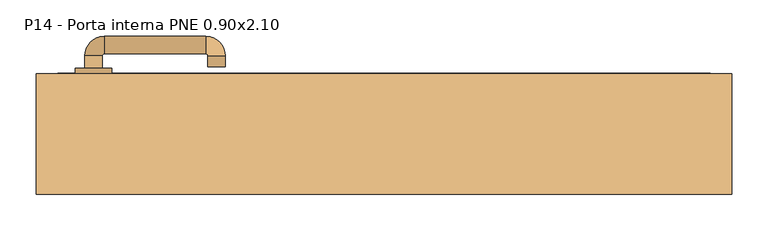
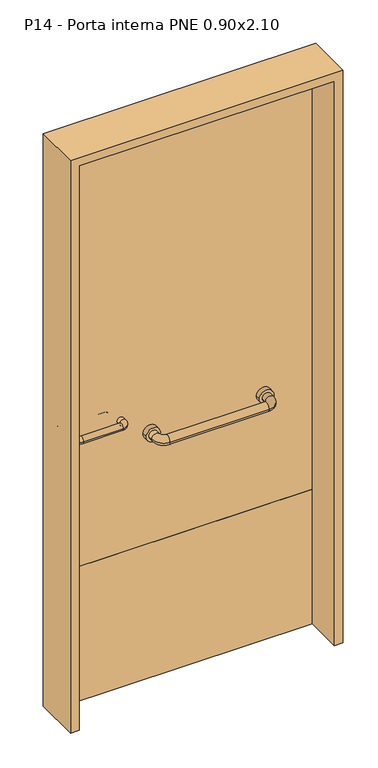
"""IFC4 building model written with IfcOpenShell, lengths in millimetres: door geometry, porta pne medida interna : P14 - Porta interna PNE 0.90x2.10."""

import ifcopenshell
import ifcopenshell.guid

model = None  # the IFC model being written
_history = None  # IfcOwnerHistory: only IFC2X3 demands one
_inside = {}  # id of a spatial element -> (the spatial element, [elements in it])
_under = {}  # id of a project, library or spatial element -> (it, [spatial elements below it])
_declared = {}  # id of a project -> (the project, [libraries it declares])
_typed = {}  # id of a type object -> (the type object, [elements of that type])
_made_of = {}  # id of a material, layer set ... -> (it, [elements and type objects made of it])


def new_model(schema):
    """Start an empty IFC model of exactly this schema.

    Asked for "IFC4X3", IfcOpenShell would pick the latest addendum, in which some entities
    have other attributes; the version numbers below select the first issue.
    IFC2X3 requires an IfcOwnerHistory on every rooted entity: one is made here for all.
    """
    global model, _history
    if schema == "IFC4X3":
        model = ifcopenshell.file(schema_version=(4, 3, 0, 0))
    else:
        model = ifcopenshell.file(schema=schema)
    _inside.clear()
    _under.clear()
    _declared.clear()
    _typed.clear()
    _made_of.clear()
    _history = None
    if model.schema == "IFC2X3":
        org = make("IfcOrganization", Name="unknown")
        user = make(
            "IfcPersonAndOrganization",
            ThePerson=make("IfcPerson", FamilyName="unknown"),
            TheOrganization=org,
        )
        app = make(
            "IfcApplication",
            ApplicationDeveloper=org,
            Version="unknown",
            ApplicationFullName="unknown",
            ApplicationIdentifier="unknown",
        )
        _history = make(
            "IfcOwnerHistory",
            OwningUser=user,
            OwningApplication=app,
            ChangeAction="ADDED",
            CreationDate=0,
        )
    return model


def make(cls, **values):
    """One entity of the class cls with the attributes given. An attribute that is None is left unset."""
    return model.create_entity(
        cls, **{name: value for name, value in values.items() if value is not None}
    )


def rooted(cls, **values):
    """An entity with a GlobalId (a new one), such as an element, a storey or a relation."""
    return make(cls, GlobalId=ifcopenshell.guid.new(), OwnerHistory=_history, **values)


def si_unit(unit_type, name, prefix=None):
    """IfcSIUnit, for example si_unit("LENGTHUNIT", "METRE", prefix="MILLI")."""
    return make("IfcSIUnit", UnitType=unit_type, Prefix=prefix, Name=name)


def assignment(units):
    """IfcUnitAssignment: the units of a project."""
    return None if units is None else make("IfcUnitAssignment", Units=units)


def point(xyz):
    """IfcCartesianPoint."""
    return None if xyz is None else make("IfcCartesianPoint", Coordinates=xyz)


def direction(xyz):
    """IfcDirection."""
    return None if xyz is None else make("IfcDirection", DirectionRatios=xyz)


def frame(location, z_axis=None, x_axis=None):
    """IfcAxis2Placement3D, a coordinate frame: its origin and axes. An axis left out is left unset."""
    return make(
        "IfcAxis2Placement3D",
        Location=point(location),
        Axis=direction(z_axis),
        RefDirection=direction(x_axis),
    )


def frame_2d(location, x_axis=None):
    """IfcAxis2Placement2D, a coordinate frame in the plane: its origin and x axis."""
    return make(
        "IfcAxis2Placement2D", Location=point(location), RefDirection=direction(x_axis)
    )


def origin():
    """The frame at (0, 0, 0) with its axes left unset."""
    return frame((0.0, 0.0, 0.0))


def origin_with_axes():
    """The frame at (0, 0, 0) with the z axis (0, 0, 1) and the x axis (1, 0, 0) written out."""
    return frame((0.0, 0.0, 0.0), z_axis=(0.0, 0.0, 1.0), x_axis=(1.0, 0.0, 0.0))


def place(relative_to, where):
    """IfcLocalPlacement: puts the frame where relative to a parent placement (None: the world)."""
    return make(
        "IfcLocalPlacement", PlacementRelTo=relative_to, RelativePlacement=where
    )


def context(
    kind, dimensions, precision=None, world=None, true_north=None, identifier=None
):
    """IfcGeometricRepresentationContext, for example the 3D "Model" context."""
    return make(
        "IfcGeometricRepresentationContext",
        ContextIdentifier=identifier,
        ContextType=kind,
        CoordinateSpaceDimension=dimensions,
        Precision=precision,
        WorldCoordinateSystem=world,
        TrueNorth=true_north,
    )


def project(units=None, contexts=None):
    """IfcProject with its units and contexts."""
    return rooted(
        "IfcProject",
        Name="project",
        RepresentationContexts=contexts,
        UnitsInContext=assignment(units),
    )


def spatial(cls, under=None, at=None, **own):
    """A site, building, storey or space (cls), placed at a placement, below another one or the project."""
    s = rooted(cls, ObjectPlacement=at, **own)
    if under is not None:
        _under.setdefault(under.id(), (under, []))[1].append(s)
    return s


def polyline(points):
    """IfcPolyline through the points."""
    return make("IfcPolyline", Points=[point(p) for p in points])


def circle_curve(where, radius):
    """IfcCircle in the frame where."""
    return make("IfcCircle", Position=where, Radius=radius)


def ellipse_curve(where, semi_axis1, semi_axis2):
    """IfcEllipse in the frame where."""
    return make(
        "IfcEllipse", Position=where, SemiAxis1=semi_axis1, SemiAxis2=semi_axis2
    )


def trimmed(basis, trim1, trim2, sense, master):
    """IfcTrimmedCurve: the piece of a basis curve between two trims."""
    return make(
        "IfcTrimmedCurve",
        BasisCurve=basis,
        Trim1=trim1,
        Trim2=trim2,
        SenseAgreement=sense,
        MasterRepresentation=master,
    )


def segment(curve, same_sense, transition):
    """IfcCompositeCurveSegment."""
    return make(
        "IfcCompositeCurveSegment",
        Transition=transition,
        SameSense=same_sense,
        ParentCurve=curve,
    )


def composite_curve(segments, self_intersect=None):
    """IfcCompositeCurve: segments joined end to end."""
    return make("IfcCompositeCurve", Segments=segments, SelfIntersect=self_intersect)


def outline(outer, holes=None, kind="AREA"):
    """IfcArbitraryClosedProfileDef: a profile drawn as a closed curve; with holes, ...WithVoids."""
    if holes is None:
        return make("IfcArbitraryClosedProfileDef", ProfileType=kind, OuterCurve=outer)
    return make(
        "IfcArbitraryProfileDefWithVoids",
        ProfileType=kind,
        OuterCurve=outer,
        InnerCurves=holes,
    )


def extrude(swept, where, along, depth):
    """IfcExtrudedAreaSolid: the profile swept, set in the frame where, extruded along a direction by depth."""
    return make(
        "IfcExtrudedAreaSolid",
        SweptArea=swept,
        Position=where,
        ExtrudedDirection=direction(along),
        Depth=depth,
    )


def shape(context_of_items, identifier, shape_type, items):
    """IfcShapeRepresentation: the items that make up one representation, for example the "Body"."""
    return make(
        "IfcShapeRepresentation",
        ContextOfItems=context_of_items,
        RepresentationIdentifier=identifier,
        RepresentationType=shape_type,
        Items=items,
    )


def source(mapping_origin, context_of_items, identifier, shape_type, items):
    """IfcRepresentationMap: a shape defined once, which mapped items show again and again."""
    return make(
        "IfcRepresentationMap",
        MappingOrigin=mapping_origin,
        MappedRepresentation=shape(context_of_items, identifier, shape_type, items),
    )


def transform(
    local_origin,
    x_axis=None,
    y_axis=None,
    z_axis=None,
    scale=None,
    scale2=None,
    scale3=None,
    uniform=True,
):
    """IfcCartesianTransformationOperator3D, or its non-uniform kind. x_axis, y_axis, z_axis: its Axis1, 2, 3."""
    if uniform:
        return make(
            "IfcCartesianTransformationOperator3D",
            Axis1=direction(x_axis),
            Axis2=direction(y_axis),
            LocalOrigin=point(local_origin),
            Scale=scale,
            Axis3=direction(z_axis),
        )
    return make(
        "IfcCartesianTransformationOperator3DnonUniform",
        Axis1=direction(x_axis),
        Axis2=direction(y_axis),
        LocalOrigin=point(local_origin),
        Scale=scale,
        Axis3=direction(z_axis),
        Scale2=scale2,
        Scale3=scale3,
    )


def mapped(mapping_source, mapping_target):
    """IfcMappedItem: shows the shape of a source again, moved by a transform."""
    return make(
        "IfcMappedItem", MappingSource=mapping_source, MappingTarget=mapping_target
    )


def made_of(thing, what):
    """Note that an element or type object is made of a material, layer set ...; save() writes the relation."""
    if what is not None:
        _made_of.setdefault(what.id(), (what, []))[1].append(thing)
    return thing


def element(
    cls,
    number,
    at=None,
    inside=None,
    cuts=None,
    type_object=None,
    material=None,
    context=None,
    identifier="Body",
    shape_type=None,
    held_by="IfcProductDefinitionShape",
    body=None,
    shapes=None,
    **own,
):
    """One element of the class cls, such as IfcWall. Its Tag is "e" and its number.

    at: its placement. inside: the storey or other place that contains it. cuts: it is an
    opening in that element (IfcRelVoidsElement). A single representation is given by context,
    identifier, shape_type and body (its items); several are given by shapes. held_by: the class
    of the entity that holds the representations. save() writes the other relations.
    """
    e = rooted(cls, Tag="e%d" % number, ObjectPlacement=at, **own)
    if body is not None:
        shapes = [shape(context, identifier, shape_type, body)]
    if shapes is not None:
        e.Representation = make(held_by, Representations=shapes)
    if inside is not None:
        _inside.setdefault(inside.id(), (inside, []))[1].append(e)
    if cuts is not None:
        rooted(
            "IfcRelVoidsElement", RelatingBuildingElement=cuts, RelatedOpeningElement=e
        )
    if type_object is not None:
        _typed.setdefault(type_object.id(), (type_object, []))[1].append(e)
    return made_of(e, material)


def aggregate(whole, parts):
    """IfcRelAggregates: a whole, such as a stair, and the parts it consists of."""
    return rooted("IfcRelAggregates", RelatingObject=whole, RelatedObjects=parts)


def save(model, path):
    """Write the relations noted so far, then the file.

    IfcRelAggregates (storeys below a building ...), IfcRelContainedInSpatialStructure (elements
    in a storey), IfcRelDefinesByType, IfcRelAssociatesMaterial and IfcRelDeclares: one each for
    every whole, place, type object, material and project.
    """
    for whole, parts in _under.values():
        aggregate(whole, parts)
    for where, things in _inside.values():
        rooted(
            "IfcRelContainedInSpatialStructure",
            RelatedElements=things,
            RelatingStructure=where,
        )
    for kind, things in _typed.values():
        rooted("IfcRelDefinesByType", RelatedObjects=things, RelatingType=kind)
    for what, things in _made_of.values():
        rooted("IfcRelAssociatesMaterial", RelatedObjects=things, RelatingMaterial=what)
    for by, libraries in _declared.values():
        rooted("IfcRelDeclares", RelatingContext=by, RelatedDefinitions=libraries)
    model.write(path)


def plane_surface(at):
    """IfcPlane: the flat surface through the origin of the frame at, square to its z axis."""
    return make("IfcPlane", Position=at)


def cylinder_surface(at, radius):
    """IfcCylindricalSurface: all points at the distance radius from the z axis of the frame at."""
    return make("IfcCylindricalSurface", Position=at, Radius=radius)


def revolved_surface(curve, axis_point, axis_direction):
    """IfcSurfaceOfRevolution: the curve turned about the line through axis_point along axis_direction."""
    return make(
        "IfcSurfaceOfRevolution",
        SweptCurve=make("IfcArbitraryOpenProfileDef", ProfileType="CURVE", Curve=curve),
        AxisPosition=make("IfcAxis1Placement", Location=point(axis_point), Axis=direction(axis_direction)),
    )


def advanced_brep(points, edges, surfaces, faces):
    """IfcAdvancedBrep: a solid bounded by faces that lie on surfaces and meet in shared edges.

    An edge is (start, end): straight between two places in points (the first is 0);
    or (start, end, curve); or (start, end, curve, False) where it runs against its curve.
    A face is (place in surfaces, loops), or (place, loops, False) where it looks against
    its surface's normal. A loop lists edges by number (the first is 1), with a minus sign
    where the edge is run from its end to its start. The first loop is the outer one.
    """
    corners = [point(p) for p in points]
    vertices = [make("IfcVertexPoint", VertexGeometry=c) for c in corners]
    made = []
    for start, end, *more in edges:
        made.append(
            make(
                "IfcEdgeCurve",
                EdgeStart=vertices[start],
                EdgeEnd=vertices[end],
                EdgeGeometry=more[0] if more else make("IfcPolyline", Points=[corners[start], corners[end]]),
                SameSense=more[1] if len(more) > 1 else True,
            )
        )
    hull = []
    for where, loops, *sense in faces:
        bounds = []
        for j, loop in enumerate(loops):
            ring = [make("IfcOrientedEdge", EdgeElement=made[abs(k) - 1], Orientation=k > 0) for k in loop]
            bounds.append(
                make(
                    "IfcFaceOuterBound" if j == 0 else "IfcFaceBound",
                    Bound=make("IfcEdgeLoop", EdgeList=ring),
                    Orientation=True,
                )
            )
        hull.append(make("IfcAdvancedFace", Bounds=bounds, FaceSurface=surfaces[where], SameSense=sense[0] if sense else True))
    return make("IfcAdvancedBrep", Outer=make("IfcClosedShell", CfsFaces=hull))


def p14_porta_interna_pne_0_90x2_10_6fbece7b(model_context):
    return source(origin(), model_context, "Body", "SolidModel", [
        advanced_brep(
        [(-389.0, 45.0, 1000.0), (-413.0, 45.0, 1000.0), (-413.0, 28.0, 1000.0), (-389.0, 28.0, 1000.0), (-386.0, 1.0, 1000.0), (-386.0, 25.0, 1000.0), (-246.0, 1.0, 1000.0), (-246.0, 25.0, 1000.0), (-219.0, 28.0, 1000.0), (-243.0, 28.0, 1000.0), (-243.0, 43.0, 1000.0), (-219.0, 43.0, 1000.0)],
        [
            (0, 1, circle_curve(frame((-401.0, 45.0, 1000.0), z_axis=(0.0, 1.0, 0.0), x_axis=(-1.0, 0.0, 0.0)), 12.0)),
            (1, 0, circle_curve(frame((-401.0, 45.0, 1000.0), z_axis=(0.0, 1.0, 0.0), x_axis=(-1.0, 0.0, 0.0)), 12.0)),
            (1, 2),
            (2, 3, circle_curve(frame((-401.0, 28.0, 1000.0), z_axis=(0.0, 1.0, 0.0), x_axis=(-1.0, 0.0, 0.0)), 12.0)),
            (3, 0),
            (3, 2, circle_curve(frame((-401.0, 28.0, 1000.0), z_axis=(0.0, 1.0, 0.0), x_axis=(-1.0, 0.0, 0.0)), 12.0)),
            (4, 5, circle_curve(frame((-386.0, 13.0, 1000.0), z_axis=(-1.0, 0.0, 0.0), x_axis=(0.0, -1.0, 0.0)), 12.0)),
            (5, 3, circle_curve(frame((-386.0, 28.0, 1000.0), z_axis=(0.0, 0.0, -1.0), x_axis=(-1.0, 0.0, 0.0)), 3.0)),
            (2, 4, circle_curve(frame((-386.0, 28.0, 1000.0), z_axis=(0.0, 0.0, 1.0), x_axis=(-1.0, 0.0, 0.0)), 27.0)),
            (5, 4, circle_curve(frame((-386.0, 13.0, 1000.0), z_axis=(-1.0, 0.0, 0.0), x_axis=(0.0, -1.0, 0.0)), 12.0)),
            (4, 6),
            (6, 7, circle_curve(frame((-246.0, 13.0, 1000.0), z_axis=(-1.0, 0.0, 0.0), x_axis=(0.0, -1.0, 0.0)), 12.0)),
            (7, 5),
            (7, 6, circle_curve(frame((-246.0, 13.0, 1000.0), z_axis=(-1.0, 0.0, 0.0), x_axis=(0.0, -1.0, 0.0)), 12.0)),
            (8, 9, circle_curve(frame((-231.0, 28.0, 1000.0), z_axis=(0.0, -1.0, 0.0), x_axis=(1.0, 0.0, 0.0)), 12.0)),
            (9, 7, circle_curve(frame((-246.0, 28.0, 1000.0), z_axis=(0.0, 0.0, -1.0), x_axis=(0.0, -1.0, 0.0)), 3.0)),
            (6, 8, circle_curve(frame((-246.0, 28.0, 1000.0), z_axis=(0.0, 0.0, 1.0), x_axis=(0.0, -1.0, 0.0)), 27.0)),
            (9, 8, circle_curve(frame((-231.0, 28.0, 1000.0), z_axis=(0.0, -1.0, 0.0), x_axis=(1.0, 0.0, 0.0)), 12.0)),
            (10, 11, circle_curve(frame((-231.0, 43.0, 1000.0), z_axis=(0.0, 1.0, 0.0), x_axis=(1.0, 0.0, 0.0)), 12.0)),
            (11, 10, circle_curve(frame((-231.0, 43.0, 1000.0), z_axis=(0.0, 1.0, 0.0), x_axis=(1.0, 0.0, 0.0)), 12.0)),
            (8, 11),
            (10, 9),
        ],
        [
            plane_surface(frame((-1243.0, 45.0, 1830.0), z_axis=(0.0, 1.0, 0.0), x_axis=(0.0, 0.0, 1.0))),
            cylinder_surface(frame((-401.0, 45.0, 1000.0), z_axis=(0.0, 1.0, 0.0), x_axis=(-1.0, 0.0, 0.0)), 12.0),
            revolved_surface(trimmed(ellipse_curve(frame((-401.0, 28.0, 1000.0), z_axis=(0.0, -1.0, 0.0), x_axis=(-1.0, 0.0, 0.0)), 12.0, 12.0), [point((-389.0, 28.0, 1000.0))], [point((-413.0, 28.0, 1000.0))], True, "CARTESIAN"), (-386.0, 28.0, 1830.0), (0.0, 0.0, -1.0)),
            revolved_surface(trimmed(ellipse_curve(frame((-401.0, 28.0, 1000.0), z_axis=(0.0, -1.0, 0.0), x_axis=(-1.0, 0.0, 0.0)), 12.0, 12.0), [point((-413.0, 28.0, 1000.0))], [point((-389.0, 28.0, 1000.0))], True, "CARTESIAN"), (-386.0, 28.0, 1830.0), (0.0, 0.0, -1.0)),
            cylinder_surface(frame((-386.0, 13.0, 1000.0), z_axis=(-1.0, 0.0, 0.0), x_axis=(0.0, -1.0, 0.0)), 12.0),
            revolved_surface(trimmed(ellipse_curve(frame((-246.0, 13.0, 1000.0), z_axis=(1.0, 0.0, 0.0), x_axis=(0.0, -1.0, 0.0)), 12.0, 12.0), [point((-246.0, 25.0, 1000.0))], [point((-246.0, 1.0, 1000.0))], True, "CARTESIAN"), (-246.0, 28.0, 1830.0), (0.0, 0.0, -1.0)),
            revolved_surface(trimmed(ellipse_curve(frame((-246.0, 13.0, 1000.0), z_axis=(1.0, 0.0, 0.0), x_axis=(0.0, -1.0, 0.0)), 12.0, 12.0), [point((-246.0, 1.0, 1000.0))], [point((-246.0, 25.0, 1000.0))], True, "CARTESIAN"), (-246.0, 28.0, 1830.0), (0.0, 0.0, -1.0)),
            plane_surface(frame((-1073.0, 43.0, 1830.0), z_axis=(0.0, 1.0, 0.0), x_axis=(0.0, 0.0, -1.0))),
            cylinder_surface(frame((-231.0, 28.0, 1000.0), z_axis=(0.0, -1.0, 0.0), x_axis=(1.0, 0.0, 0.0)), 12.0),
        ],
        [
            (0, [[1, 2]]),
            (1, [[3, 4, 5, -2]]),
            (1, [[-5, 6, -3, -1]]),
            (2, [[7, 8, -4, 9]]),
            (3, [[10, -9, -6, -8]]),
            (4, [[11, 12, 13, -7]]),
            (4, [[-13, 14, -11, -10]]),
            (5, [[15, 16, -12, 17]]),
            (6, [[18, -17, -14, -16]]),
            (7, [[19, 20]]),
            (8, [[21, -19, 22, -15]]),
            (8, [[-22, -20, -21, -18]]),
        ],
    ),
        extrude(outline(composite_curve([segment(trimmed(circle_curve(frame_2d((880.0, -401.0)), 25.0), [point((880.0, -426.0))], [point((880.0, -376.0))], False, "CARTESIAN"), True, "CONTINUOUS"), segment(trimmed(circle_curve(frame_2d((880.0, -401.0)), 25.0), [point((880.0, -376.0))], [point((880.0, -426.0))], False, "CARTESIAN"), True, "CONTINUOUS")], self_intersect=False)), frame((0.0, 45.0, 0.0), z_axis=(0.0, 1.0, 0.0), x_axis=(0.0, 0.0, 1.0)), (0.0, 0.0, 1.0), 8.0),
        extrude(outline(composite_curve([segment(trimmed(circle_curve(frame_2d((1000.0, -401.0)), 25.0), [point((1000.0, -426.0))], [point((1000.0, -376.0))], False, "CARTESIAN"), True, "CONTINUOUS"), segment(trimmed(circle_curve(frame_2d((1000.0, -401.0)), 25.0), [point((1000.0, -376.0))], [point((1000.0, -426.0))], False, "CARTESIAN"), True, "CONTINUOUS")], self_intersect=False)), frame((0.0, 45.0, 0.0), z_axis=(0.0, 1.0, 0.0), x_axis=(0.0, 0.0, 1.0)), (0.0, 0.0, 1.0), 8.0),
        advanced_brep(
        [(-413.0, 91.0, 1000.0), (-389.0, 91.0, 1000.0), (-389.0, 108.0, 1000.0), (-413.0, 108.0, 1000.0), (-386.0, 111.0, 1000.0), (-386.0, 135.0, 1000.0), (-246.0, 111.0, 1000.0), (-246.0, 135.0, 1000.0), (-243.0, 108.0, 1000.0), (-219.0, 108.0, 1000.0), (-219.0, 93.0, 1000.0), (-243.0, 93.0, 1000.0)],
        [
            (0, 1, circle_curve(frame((-401.0, 91.0, 1000.0), z_axis=(0.0, -1.0, 0.0), x_axis=(1.0, 0.0, 0.0)), 12.0)),
            (1, 0, circle_curve(frame((-401.0, 91.0, 1000.0), z_axis=(0.0, -1.0, 0.0), x_axis=(1.0, 0.0, 0.0)), 12.0)),
            (1, 2),
            (2, 3, circle_curve(frame((-401.0, 108.0, 1000.0), z_axis=(0.0, -1.0, 0.0), x_axis=(1.0, 0.0, 0.0)), 12.0)),
            (3, 0),
            (3, 2, circle_curve(frame((-401.0, 108.0, 1000.0), z_axis=(0.0, -1.0, 0.0), x_axis=(1.0, 0.0, 0.0)), 12.0)),
            (4, 5, circle_curve(frame((-386.0, 123.0, 1000.0), z_axis=(-1.0, 0.0, 0.0), x_axis=(0.0, -1.0, 0.0)), 12.0)),
            (5, 3, circle_curve(frame((-386.0, 108.0, 1000.0), z_axis=(0.0, 0.0, 1.0), x_axis=(-1.0, 0.0, 0.0)), 27.0)),
            (2, 4, circle_curve(frame((-386.0, 108.0, 1000.0), z_axis=(0.0, 0.0, -1.0), x_axis=(-1.0, 0.0, 0.0)), 3.0)),
            (5, 4, circle_curve(frame((-386.0, 123.0, 1000.0), z_axis=(-1.0, 0.0, 0.0), x_axis=(0.0, -1.0, 0.0)), 12.0)),
            (4, 6),
            (6, 7, circle_curve(frame((-246.0, 123.0, 1000.0), z_axis=(-1.0, 0.0, 0.0), x_axis=(0.0, -1.0, 0.0)), 12.0)),
            (7, 5),
            (7, 6, circle_curve(frame((-246.0, 123.0, 1000.0), z_axis=(-1.0, 0.0, 0.0), x_axis=(0.0, -1.0, 0.0)), 12.0)),
            (8, 9, circle_curve(frame((-231.0, 108.0, 1000.0), z_axis=(0.0, 1.0, 0.0), x_axis=(-1.0, 0.0, 0.0)), 12.0)),
            (9, 7, circle_curve(frame((-246.0, 108.0, 1000.0), z_axis=(0.0, 0.0, 1.0), x_axis=(0.0, 1.0, 0.0)), 27.0)),
            (6, 8, circle_curve(frame((-246.0, 108.0, 1000.0), z_axis=(0.0, 0.0, -1.0), x_axis=(0.0, 1.0, 0.0)), 3.0)),
            (9, 8, circle_curve(frame((-231.0, 108.0, 1000.0), z_axis=(0.0, 1.0, 0.0), x_axis=(-1.0, 0.0, 0.0)), 12.0)),
            (10, 11, circle_curve(frame((-231.0, 93.0, 1000.0), z_axis=(0.0, -1.0, 0.0), x_axis=(-1.0, 0.0, 0.0)), 12.0)),
            (11, 10, circle_curve(frame((-231.0, 93.0, 1000.0), z_axis=(0.0, -1.0, 0.0), x_axis=(-1.0, 0.0, 0.0)), 12.0)),
            (8, 11),
            (10, 9),
        ],
        [
            plane_surface(frame((-1243.0, 91.0, 1830.0), z_axis=(0.0, -1.0, 0.0), x_axis=(0.0, 0.0, -1.0))),
            cylinder_surface(frame((-401.0, 91.0, 1000.0), z_axis=(0.0, -1.0, 0.0), x_axis=(1.0, 0.0, 0.0)), 12.0),
            revolved_surface(trimmed(ellipse_curve(frame((-401.0, 108.0, 1000.0), z_axis=(0.0, 1.0, 0.0), x_axis=(1.0, 0.0, 0.0)), 12.0, 12.0), [point((-413.0, 108.0, 1000.0))], [point((-389.0, 108.0, 1000.0))], True, "CARTESIAN"), (-386.0, 108.0, 1830.0), (0.0, 0.0, 1.0)),
            revolved_surface(trimmed(ellipse_curve(frame((-401.0, 108.0, 1000.0), z_axis=(0.0, 1.0, 0.0), x_axis=(1.0, 0.0, 0.0)), 12.0, 12.0), [point((-389.0, 108.0, 1000.0))], [point((-413.0, 108.0, 1000.0))], True, "CARTESIAN"), (-386.0, 108.0, 1830.0), (0.0, 0.0, 1.0)),
            cylinder_surface(frame((-386.0, 123.0, 1000.0), z_axis=(-1.0, 0.0, 0.0), x_axis=(0.0, -1.0, 0.0)), 12.0),
            revolved_surface(trimmed(ellipse_curve(frame((-246.0, 123.0, 1000.0), z_axis=(1.0, 0.0, 0.0), x_axis=(0.0, -1.0, 0.0)), 12.0, 12.0), [point((-246.0, 135.0, 1000.0))], [point((-246.0, 111.0, 1000.0))], True, "CARTESIAN"), (-246.0, 108.0, 1830.0), (0.0, 0.0, 1.0)),
            revolved_surface(trimmed(ellipse_curve(frame((-246.0, 123.0, 1000.0), z_axis=(1.0, 0.0, 0.0), x_axis=(0.0, -1.0, 0.0)), 12.0, 12.0), [point((-246.0, 111.0, 1000.0))], [point((-246.0, 135.0, 1000.0))], True, "CARTESIAN"), (-246.0, 108.0, 1830.0), (0.0, 0.0, 1.0)),
            plane_surface(frame((-1073.0, 93.0, 1830.0), z_axis=(0.0, -1.0, 0.0), x_axis=(0.0, 0.0, 1.0))),
            cylinder_surface(frame((-231.0, 108.0, 1000.0), z_axis=(0.0, 1.0, 0.0), x_axis=(-1.0, 0.0, 0.0)), 12.0),
        ],
        [
            (0, [[1, 2]]),
            (1, [[3, 4, 5, -2]]),
            (1, [[-5, 6, -3, -1]]),
            (2, [[7, 8, -4, 9]]),
            (3, [[10, -9, -6, -8]]),
            (4, [[11, 12, 13, -7]]),
            (4, [[-13, 14, -11, -10]]),
            (5, [[15, 16, -12, 17]]),
            (6, [[18, -17, -14, -16]]),
            (7, [[19, 20]]),
            (8, [[21, -19, 22, -15]]),
            (8, [[-22, -20, -21, -18]]),
        ],
    ),
        extrude(outline(composite_curve([segment(trimmed(circle_curve(frame_2d((880.0, -401.0)), 25.0), [point((880.0, -426.0))], [point((880.0, -376.0))], False, "CARTESIAN"), True, "CONTINUOUS"), segment(trimmed(circle_curve(frame_2d((880.0, -401.0)), 25.0), [point((880.0, -376.0))], [point((880.0, -426.0))], False, "CARTESIAN"), True, "CONTINUOUS")], self_intersect=False)), frame((0.0, 83.0, 0.0), z_axis=(0.0, 1.0, 0.0), x_axis=(0.0, 0.0, 1.0)), (0.0, 0.0, 1.0), 8.0),
        extrude(outline(composite_curve([segment(trimmed(circle_curve(frame_2d((1000.0, -401.0)), 25.0), [point((1000.0, -426.0))], [point((1000.0, -376.0))], False, "CARTESIAN"), True, "CONTINUOUS"), segment(trimmed(circle_curve(frame_2d((1000.0, -401.0)), 25.0), [point((1000.0, -376.0))], [point((1000.0, -426.0))], False, "CARTESIAN"), True, "CONTINUOUS")], self_intersect=False)), frame((0.0, 83.0, 0.0), z_axis=(0.0, 1.0, 0.0), x_axis=(0.0, 0.0, 1.0)), (0.0, 0.0, 1.0), 8.0),
        extrude(outline(composite_curve([segment(trimmed(circle_curve(frame_2d((914.4, -121.4077617)), 25.4), [point((914.4, -96.0077617))], [point((914.4, -146.8077617))], False, "CARTESIAN"), True, "CONTINUOUS"), segment(trimmed(circle_curve(frame_2d((914.4, -121.4077617)), 25.4), [point((914.4, -146.8077617))], [point((914.4, -96.0077617))], False, "CARTESIAN"), True, "CONTINUOUS")], self_intersect=False)), frame((0.0, 33.95, 0.0), z_axis=(0.0, 1.0, 0.0), x_axis=(0.0, 0.0, 1.0)), (0.0, 0.0, 1.0), 19.05),
        extrude(outline(composite_curve([segment(trimmed(circle_curve(frame_2d((914.4, 278.5922383)), 25.4), [point((914.4, 303.9922383))], [point((914.4, 253.1922383))], False, "CARTESIAN"), True, "CONTINUOUS"), segment(trimmed(circle_curve(frame_2d((914.4, 278.5922383)), 25.4), [point((914.4, 253.1922383))], [point((914.4, 303.9922383))], False, "CARTESIAN"), True, "CONTINUOUS")], self_intersect=False)), frame((0.0, 33.95, 0.0), z_axis=(0.0, 1.0, 0.0), x_axis=(0.0, 0.0, 1.0)), (0.0, 0.0, 1.0), 19.05),
        advanced_brep(
        [(262.7172383, 33.95, 914.4), (294.4672383, 33.95, 914.4), (262.7172383, 14.9, 914.4), (294.4672383, 14.9, 914.4), (253.1922383, -26.375, 914.4), (253.1922383, 5.375, 914.4), (-96.0077617, 5.375, 914.4), (-96.0077617, -26.375, 914.4), (-137.2827617, 14.9, 914.4), (-105.5327617, 14.9, 914.4), (-105.5327617, 33.95, 914.4), (-137.2827617, 33.95, 914.4)],
        [
            (0, 1, circle_curve(frame((278.5922383, 33.95, 914.4), z_axis=(0.0, 1.0, 0.0), x_axis=(1.0, 0.0, 0.0)), 15.875)),
            (1, 0, circle_curve(frame((278.5922383, 33.95, 914.4), z_axis=(0.0, 1.0, 0.0), x_axis=(1.0, 0.0, 0.0)), 15.875)),
            (0, 2),
            (2, 3, circle_curve(frame((278.5922383, 14.9, 914.4), z_axis=(0.0, 1.0, 0.0), x_axis=(1.0, 0.0, 0.0)), 15.875)),
            (3, 1),
            (3, 2, circle_curve(frame((278.5922383, 14.9, 914.4), z_axis=(0.0, 1.0, 0.0), x_axis=(1.0, 0.0, 0.0)), 15.875)),
            (4, 3, circle_curve(frame((253.1922383, 14.9, 914.4), z_axis=(0.0, 0.0, 1.0), x_axis=(1.0, 0.0, 0.0)), 41.275)),
            (2, 5, circle_curve(frame((253.1922383, 14.9, 914.4), z_axis=(0.0, 0.0, -1.0), x_axis=(1.0, 0.0, 0.0)), 9.525)),
            (5, 4, circle_curve(frame((253.1922383, -10.5, 914.4), z_axis=(1.0, 0.0, 0.0), x_axis=(0.0, -1.0, 0.0)), 15.875)),
            (4, 5, circle_curve(frame((253.1922383, -10.5, 914.4), z_axis=(1.0, 0.0, 0.0), x_axis=(0.0, -1.0, 0.0)), 15.875)),
            (5, 6),
            (6, 7, circle_curve(frame((-96.0077617, -10.5, 914.4), z_axis=(1.0, 0.0, 0.0), x_axis=(0.0, -1.0, 0.0)), 15.875)),
            (7, 4),
            (7, 6, circle_curve(frame((-96.0077617, -10.5, 914.4), z_axis=(1.0, 0.0, 0.0), x_axis=(0.0, -1.0, 0.0)), 15.875)),
            (8, 7, circle_curve(frame((-96.0077617, 14.9, 914.4), z_axis=(0.0, 0.0, 1.0), x_axis=(0.0, -1.0, 0.0)), 41.275)),
            (6, 9, circle_curve(frame((-96.0077617, 14.9, 914.4), z_axis=(0.0, 0.0, -1.0), x_axis=(0.0, -1.0, 0.0)), 9.525)),
            (9, 8, circle_curve(frame((-121.4077617, 14.9, 914.4), z_axis=(0.0, -1.0, 0.0), x_axis=(-1.0, 0.0, 0.0)), 15.875)),
            (8, 9, circle_curve(frame((-121.4077617, 14.9, 914.4), z_axis=(0.0, -1.0, 0.0), x_axis=(-1.0, 0.0, 0.0)), 15.875)),
            (10, 11, circle_curve(frame((-121.4077617, 33.95, 914.4), z_axis=(0.0, 1.0, 0.0), x_axis=(-1.0, 0.0, 0.0)), 15.875)),
            (11, 10, circle_curve(frame((-121.4077617, 33.95, 914.4), z_axis=(0.0, 1.0, 0.0), x_axis=(-1.0, 0.0, 0.0)), 15.875)),
            (9, 10),
            (11, 8),
        ],
        [
            plane_surface(frame((1208.8672383, 33.95, 0.0), z_axis=(0.0, 1.0, 0.0), x_axis=(0.0, 0.0, 1.0))),
            cylinder_surface(frame((278.5922383, 33.95, 914.4), z_axis=(0.0, 1.0, 0.0), x_axis=(1.0, 0.0, 0.0)), 15.875),
            revolved_surface(trimmed(ellipse_curve(frame((278.5922383, 14.9, 914.4), z_axis=(0.0, 1.0, 0.0), x_axis=(1.0, 0.0, 0.0)), 15.875, 15.875), [point((262.7172383, 14.9, 914.4))], [point((294.4672383, 14.9, 914.4))], True, "CARTESIAN"), (253.1922383, 14.9, 0.0), (0.0, 0.0, -1.0)),
            revolved_surface(trimmed(ellipse_curve(frame((278.5922383, 14.9, 914.4), z_axis=(0.0, 1.0, 0.0), x_axis=(1.0, 0.0, 0.0)), 15.875, 15.875), [point((294.4672383, 14.9, 914.4))], [point((262.7172383, 14.9, 914.4))], True, "CARTESIAN"), (253.1922383, 14.9, 0.0), (0.0, 0.0, -1.0)),
            cylinder_surface(frame((253.1922383, -10.5, 914.4), z_axis=(1.0, 0.0, 0.0), x_axis=(0.0, -1.0, 0.0)), 15.875),
            revolved_surface(trimmed(ellipse_curve(frame((-96.0077617, -10.5, 914.4), z_axis=(1.0, 0.0, 0.0), x_axis=(0.0, -1.0, 0.0)), 15.875, 15.875), [point((-96.0077617, 5.375, 914.4))], [point((-96.0077617, -26.375, 914.4))], True, "CARTESIAN"), (-96.0077617, 14.9, 0.0), (0.0, 0.0, -1.0)),
            revolved_surface(trimmed(ellipse_curve(frame((-96.0077617, -10.5, 914.4), z_axis=(1.0, 0.0, 0.0), x_axis=(0.0, -1.0, 0.0)), 15.875, 15.875), [point((-96.0077617, -26.375, 914.4))], [point((-96.0077617, 5.375, 914.4))], True, "CARTESIAN"), (-96.0077617, 14.9, 0.0), (0.0, 0.0, -1.0)),
            plane_surface(frame((808.8672383, 33.95, 0.0), z_axis=(0.0, 1.0, 0.0), x_axis=(0.0, 0.0, -1.0))),
            cylinder_surface(frame((-121.4077617, 14.9, 914.4), z_axis=(0.0, -1.0, 0.0), x_axis=(-1.0, 0.0, 0.0)), 15.875),
        ],
        [
            (0, [[1, 2]]),
            (1, [[-1, 3, 4, 5]]),
            (1, [[-2, -5, 6, -3]]),
            (2, [[7, -4, 8, 9]]),
            (3, [[-8, -6, -7, 10]]),
            (4, [[-9, 11, 12, 13]]),
            (4, [[-10, -13, 14, -11]]),
            (5, [[15, -12, 16, 17]]),
            (6, [[-16, -14, -15, 18]]),
            (7, [[19, 20]]),
            (8, [[-17, 21, -20, 22]]),
            (8, [[-18, -22, -19, -21]]),
        ],
    ),
        extrude(outline(polyline([(0.0, -450.0), (2100.0, -450.0), (2100.0, 450.0), (0.0, 450.0), (0.0, 480.0), (2130.0, 480.0), (2130.0, -480.0), (0.0, -480.0), (0.0, -450.0)])), frame((0.0, -83.0, 0.0), z_axis=(0.0, 1.0, 0.0), x_axis=(0.0, 0.0, 1.0)), (0.0, 0.0, 1.0), 166.0),
        extrude(outline(polyline([(450.0, 83.0), (450.0, 53.0), (-450.0, 53.0), (-450.0, 83.0), (450.0, 83.0)])), origin_with_axes(), (0.0, 0.0, 1.0), 2100.0),
        extrude(outline(polyline([(1600.0, 96.9185761), (1800.0, 96.9185761), (1800.0, -96.9185761), (1600.0, -96.9185761), (1600.0, 96.9185761)]), holes=[composite_curve([segment(polyline([(1628.7363805, 49.6828378), (1688.4855397, 24.8691264), (1688.4855397, -25.1331322), (1767.0130149, -32.5603494)]), True, "CONTINUOUS"), segment(trimmed(circle_curve(frame_2d((1776.1591244, -21.7622493)), 14.1509818), [point((1767.0130149, -32.5603494))], [point((1762.0109204, -22.0426173))], True, "CARTESIAN"), True, "CONTINUOUS"), segment(polyline([(1762.0109204, -22.0426173), (1723.4855397, -18.3988434), (1723.4855397, 18.5281564), (1713.4855397, 18.5281564), (1713.4855397, -17.4530321), (1698.4855397, -16.0343152), (1698.4855397, 31.5442224), (1641.8070125, 55.0827063), (1649.477776, 73.5532068), (1640.2425257, 77.3885885), (1628.7363805, 49.6828378)]), True, "CONTINUOUS")], self_intersect=False), composite_curve([segment(polyline([(1664.5407291, 29.3993219), (1648.7950906, 35.9384554)]), True, "CONTINUOUS"), segment(trimmed(circle_curve(frame_2d((1668.4542089, -15.4620486)), 55.0317431), [point((1648.7950906, 35.9384554))], [point((1720.5528546, -33.1884092))], True, "CARTESIAN"), True, "CONTINUOUS"), segment(polyline([(1720.5528546, -33.1884092), (1710.2539579, -32.214328)]), True, "CONTINUOUS"), segment(trimmed(circle_curve(frame_2d((1668.4542089, -15.4620486)), 45.0317431), [point((1710.2539579, -32.214328))], [point((1664.5407291, 29.3993219))], False, "CARTESIAN"), True, "CONTINUOUS")], self_intersect=False)]), frame((0.0, 83.0, 0.0), z_axis=(0.0, 1.0, 0.0), x_axis=(0.0, 0.0, 1.0)), (0.0, 0.0, 1.0), 1.0),
        extrude(outline(polyline([(450.0, 51.9521044), (-450.0, 51.9521044), (-450.0, 53.0), (450.0, 53.0), (450.0, 51.9521044)])), origin_with_axes(), (0.0, 0.0, 1.0), 500.0),
        extrude(outline(polyline([(450.0, 83.0), (-450.0, 83.0), (-450.0, 84.0478956), (450.0, 84.0478956), (450.0, 83.0)])), origin_with_axes(), (0.0, 0.0, 1.0), 500.0),
    ])


if __name__ == "__main__":
    model = new_model("IFC4")
    model_context = context("Model", 3, world=origin())
    ifc_project = project(units=[si_unit("LENGTHUNIT", "METRE", prefix="MILLI")], contexts=[model_context])
    site = spatial("IfcSite", under=ifc_project)
    building = spatial("IfcBuilding", under=site)
    placement = place(None, origin())
    p14_porta_interna_pne_0_90x2_10_shape = p14_porta_interna_pne_0_90x2_10_6fbece7b(model_context)
    element("IfcDoor", 1, ObjectType="porta pne medida interna : P14 - Porta interna PNE 0.90x2.10", at=placement, inside=building, context=model_context, shape_type="MappedRepresentation", body=[
        mapped(p14_porta_interna_pne_0_90x2_10_shape, transform((0.0, 0.0, 0.0), x_axis=(1.0, 0.0, 0.0), y_axis=(0.0, 1.0, 0.0), z_axis=(0.0, 0.0, 1.0))),
    ])
    save(model, "model.ifc")
